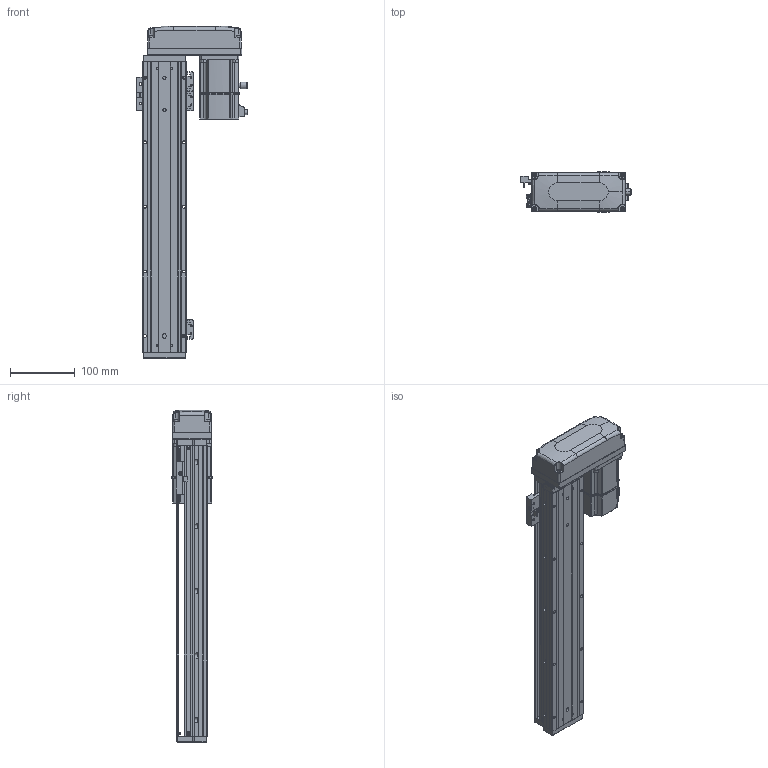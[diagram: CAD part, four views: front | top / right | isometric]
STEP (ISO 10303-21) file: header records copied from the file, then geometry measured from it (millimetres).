
FILE_DESCRIPTION (( 'STEP AP203' ), '1' );
FILE_NAME ('KTHA60-350-BL-M20-C4L.step', '2022-12-16T01:32:04', ( '微软用户' ), ( '微软中国' ), 'SwSTEP 2.0', 'SolidWorks 2020', '' );
FILE_SCHEMA (( 'CONFIG_CONTROL_DESIGN' ));
Length unit declared in the file: millimetre
Products named in the file (17): KTHA60-001_450; CTHA60-021; CTHA60-006-2_CTHA60-006-2; KTHA60-004; GBT 70.1-M4×16; _X2_4E0983F1_X0_200W_1; KTHA60-005; GBT77-2000M3-3; KTHA60-350-BL-M20-C4L; GB¨uT 70.2-M3¡Á5_M3¡Á6; GBT 70.1-M3℅6; GBT 70.3-M3℅6; CTHA60-016; EE_SX911P_R; KTHA60-002; CTHA60-017; BTH80-026
Assembly tree (51 placements, depth 2):
  KTHA60-350-BL-M20-C4L
    KTHA60-001_450
    KTHA60-004
    KTHA60-005
    GB¨uT 70.2-M3¡Á5_M3¡Á6  x6
    GBT 70.3-M3℅6  x4
    EE_SX911P_R  x3
    CTHA60-017  x3
    CTHA60-021  x2
    GBT 70.1-M4×16  x8
    GBT77-2000M3-3  x6
    GBT 70.1-M3℅6  x10
    CTHA60-016  x2
    KTHA60-002
    BTH80-026
    CTHA60-006-2_CTHA60-006-2
    _X2_4E0983F1_X0_200W_1
Bounding box: 172.1 x 62.42 x 514 mm (x, y, z)
Volume: 1250362.2 mm3; surface area: 330138.3 mm2
Topology: 54 solids, 54 shells, 2408 faces, 5717 edges, 3514 vertices
Faces by surface type: plane 1273, cylinder 638, cone 280, bspline 109, torus 92, sphere 16
Entity records: 44240 total; most frequent: CARTESIAN_POINT 10370, ORIENTED_EDGE 6482, DIRECTION 6478, EDGE_CURVE 3241, AXIS2_PLACEMENT_3D 2241, VERTEX_POINT 2023, LINE 1996, VECTOR 1996
